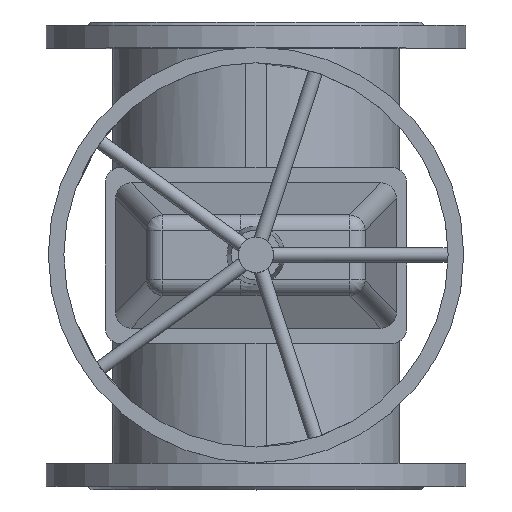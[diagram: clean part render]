
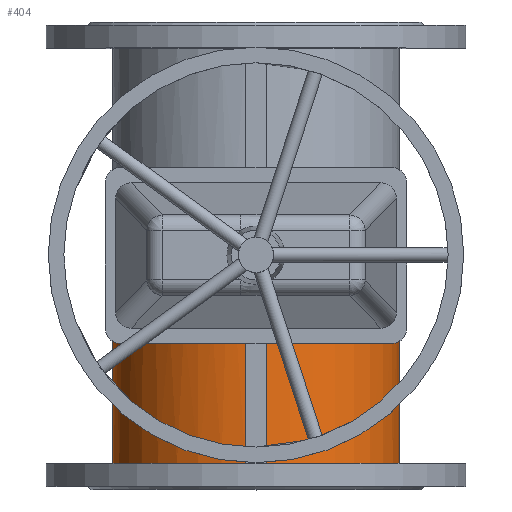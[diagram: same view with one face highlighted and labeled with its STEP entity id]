
A CAD part, top view. The second image highlights one B-rep face of the part: STEP entity #404.
In plain terms, the highlighted cylindrical face has radius 138 mm (diameter 276 mm), a partial arc.
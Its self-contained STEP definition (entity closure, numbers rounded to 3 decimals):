
#404=ADVANCED_FACE('',(#1396),#1398,.T.);
#1396=FACE_BOUND('',#1397,.T.);
#1397=EDGE_LOOP('',(#2764,#2765,#2766,#2767,#2768));
#1398=CYLINDRICAL_SURFACE('',#1399,138.);
#1399=AXIS2_PLACEMENT_3D('',#1400,#1401,#1402);
#1400=CARTESIAN_POINT('',(0.,-200.,0.));
#1401=DIRECTION('',(0.,1.,0.));
#1402=DIRECTION('',(0.,0.,1.));
#2764=ORIENTED_EDGE('',*,*,#3194,.F.);
#2765=ORIENTED_EDGE('',*,*,#3161,.F.);
#2766=ORIENTED_EDGE('',*,*,#3156,.F.);
#2767=ORIENTED_EDGE('',*,*,#3193,.F.);
#2768=ORIENTED_EDGE('',*,*,#3195,.T.);
#3156=EDGE_CURVE('',#3468,#3470,#3471,.T.);
#3161=EDGE_CURVE('',#3470,#3478,#3479,.T.);
#3193=EDGE_CURVE('',#3524,#3468,#3526,.T.);
#3194=EDGE_CURVE('',#3478,#3527,#3528,.F.);
#3195=EDGE_CURVE('',#3524,#3527,#3529,.T.);
#3468=VERTEX_POINT('',#4083);
#3470=VERTEX_POINT('',#4087);
#3471=(BOUNDED_CURVE()B_SPLINE_CURVE(3,
(#4088,#4089,#4090,#4091),
.UNSPECIFIED.,.F.,.F.)B_SPLINE_CURVE_WITH_KNOTS((4,4),
(0.,1.),
.UNSPECIFIED.)CURVE()GEOMETRIC_REPRESENTATION_ITEM()RATIONAL_B_SPLINE_CURVE((1.,
0.358,0.358,1.))REPRESENTATION_ITEM(''));
#3478=VERTEX_POINT('',#4107);
#3479=(BOUNDED_CURVE()B_SPLINE_CURVE(3,
(#4108,#4109,#4110,#4111),
.UNSPECIFIED.,.F.,.F.)B_SPLINE_CURVE_WITH_KNOTS((4,4),
(0.,1.),
.UNSPECIFIED.)CURVE()GEOMETRIC_REPRESENTATION_ITEM()RATIONAL_B_SPLINE_CURVE((1.,
0.358,0.358,1.))REPRESENTATION_ITEM(''));
#3524=VERTEX_POINT('',#4221);
#3526=LINE('',#4225,#4226);
#3527=VERTEX_POINT('',#4228);
#3528=LINE('',#4229,#4230);
#3529=CIRCLE('',#4232,138.);
#4083=CARTESIAN_POINT('',(10.,-68.23,137.637));
#4087=CARTESIAN_POINT('',(0.,-50.,-138.));
#4088=CARTESIAN_POINT('',(10.,-68.23,137.637));
#4089=CARTESIAN_POINT('',(266.495,-66.997,119.002));
#4090=CARTESIAN_POINT('',(257.171,-50.,-138.));
#4091=CARTESIAN_POINT('',(0.,-50.,-138.));
#4107=CARTESIAN_POINT('',(-10.,-68.23,137.637));
#4108=CARTESIAN_POINT('',(0.,-50.,-138.));
#4109=CARTESIAN_POINT('',(-257.171,-50.,-138.));
#4110=CARTESIAN_POINT('',(-266.495,-66.997,119.002));
#4111=CARTESIAN_POINT('',(-10.,-68.23,137.637));
#4221=CARTESIAN_POINT('',(10.,-200.,137.637));
#4225=CARTESIAN_POINT('',(10.,-200.,137.637));
#4226=VECTOR('',#4227,1.);
#4227=DIRECTION('',(0.,1.,0.));
#4228=CARTESIAN_POINT('',(-10.,-200.,137.637));
#4229=CARTESIAN_POINT('',(-10.,-200.,137.637));
#4230=VECTOR('',#4231,1.);
#4231=DIRECTION('',(0.,1.,0.));
#4232=AXIS2_PLACEMENT_3D('',#4233,#4234,#4235);
#4233=CARTESIAN_POINT('',(0.,-200.,0.));
#4234=DIRECTION('',(0.,1.,0.));
#4235=DIRECTION('',(0.072,0.,0.997));
